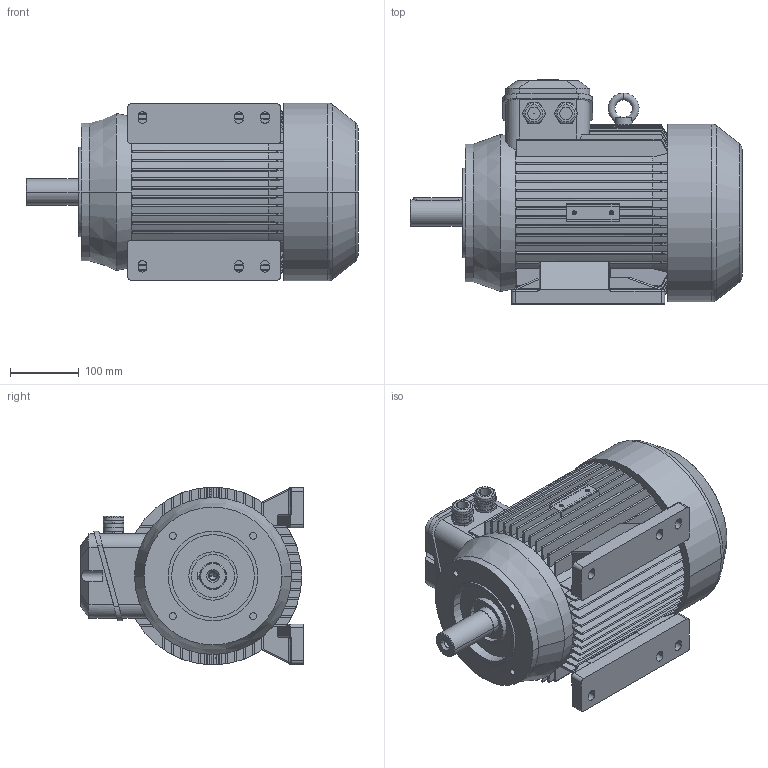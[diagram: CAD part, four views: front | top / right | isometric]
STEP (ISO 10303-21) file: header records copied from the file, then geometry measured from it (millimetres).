
FILE_DESCRIPTION (( 'STEP AP214' ), '1' );
FILE_NAME ('MAP132M6B IM2141 FT165.STEP', '2021-03-08T10:43:57', ( '' ), ( '' ), 'SwSTEP 2.0', 'SolidWorks 2018', '' );
FILE_SCHEMA (( 'AUTOMOTIVE_DESIGN' ));
Length unit declared in the file: millimetre
Products named in the file (1): MAP132M6B IM2141 FT165
Bounding box: 482 x 325 x 258 mm (x, y, z)
Volume: 18064780.9 mm3; surface area: 1198158.9 mm2
Topology: 1 solids, 6 shells, 945 faces, 2540 edges, 1653 vertices
Faces by surface type: plane 518, cylinder 236, cone 121, bspline 48, torus 22
Entity records: 36102 total; most frequent: CARTESIAN_POINT 13060, ORIENTED_EDGE 5076, DIRECTION 4431, EDGE_CURVE 2538, VERTEX_POINT 1653, AXIS2_PLACEMENT_3D 1486, VECTOR 1459, LINE 1459
